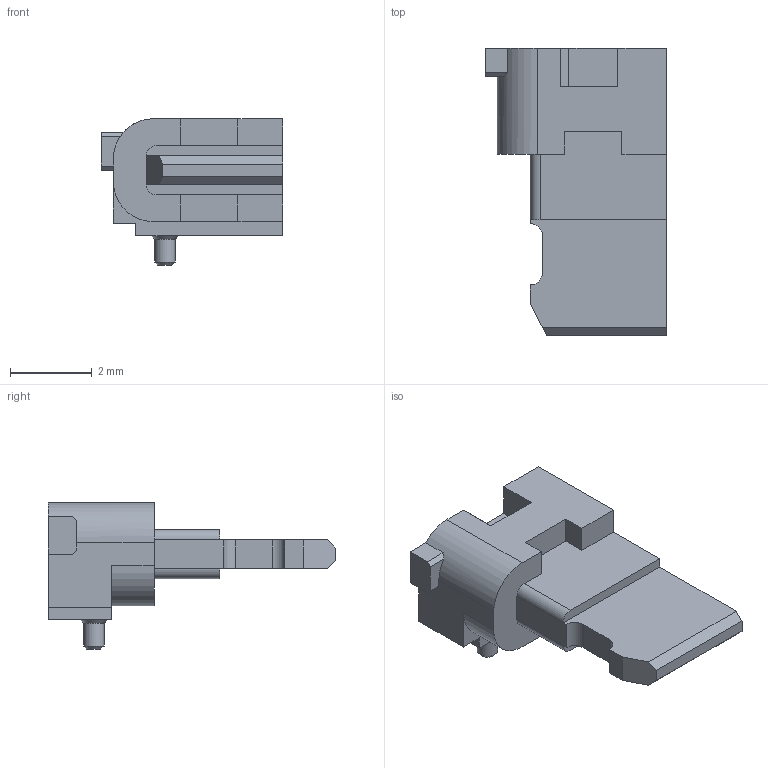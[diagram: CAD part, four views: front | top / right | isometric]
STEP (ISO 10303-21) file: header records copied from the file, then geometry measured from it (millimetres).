
FILE_DESCRIPTION(/* description */ ('STEP AP242 Edition 2','CAx-IF Rec.Pracs.---Representation and Presentation of Product Manufacturing Information (PMI)---4.0---2014-10-13','CAx-IF Rec.Pracs.---3D Tessellated Geometry---0.4---2014-09-14','2;1','CAx-IF Rec.Pracs.---User Defined Attributes---1.5---2016-08-15'),/* implementation_level */ '2;1');
FILE_NAME(/* name */ 'v2_assembly - USB_C_Receptacle_GCT_USB4105-xx-A_16P_TopMnt_Horizontal (12)',/* time_stamp */ '2026-05-19T16:26:07Z',/* author */ (''),/* organization */ (''),/* preprocessor_version */ 'ST-DEVELOPER v20',/* originating_system */ 'ONSHAPE BY PTC INC, 1.215',/* authorisation */ ' ');
FILE_SCHEMA (('AP242_MANAGED_MODEL_BASED_3D_ENGINEERING_MIM_LF { 1 0 10303 442 3 1 4 }'));
Length unit declared in the file: metre
Products named in the file (1): USB_C_Receptacle_GCT_USB4105-xx-A_16P_TopMnt_Horizontal
Bounding box: 4.45 x 7.05 x 3.59 mm (x, y, z)
Volume: 39.4 mm3; surface area: 97.7 mm2
Topology: 1 solids, 1 shells, 52 faces, 143 edges, 94 vertices
Faces by surface type: plane 43, cylinder 7, cone 2
Full cylindrical faces by diameter (mm): 0.5 x1
Entity records: 2005 total; most frequent: CARTESIAN_POINT 287, ORIENTED_EDGE 280, DIRECTION 264, EDGE_CURVE 140, LINE 122, VECTOR 122, VERTEX_POINT 94, AXIS2_PLACEMENT_3D 71
